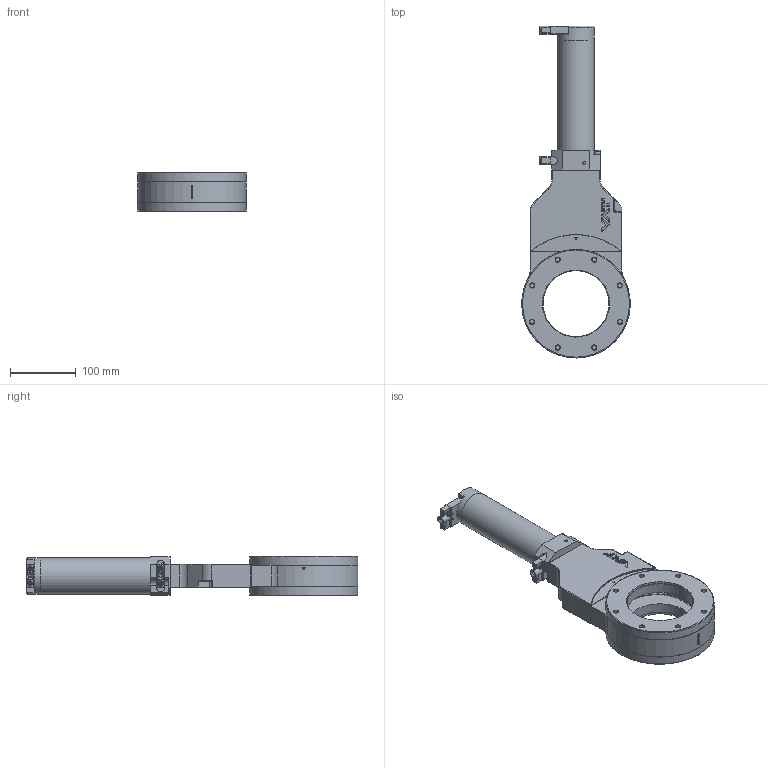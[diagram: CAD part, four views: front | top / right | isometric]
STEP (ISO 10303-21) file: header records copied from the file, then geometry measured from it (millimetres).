
FILE_DESCRIPTION( ( 'Unknown' ), '1' );
FILE_NAME( 'X:/Daten ( aktueller Bestand )/Projekte und Zeichnungen/Solid Edge/STP-Dateien/Schieberventile ISO-F/814424.stp', 'Unknown', ( 'Unknown' ), ( 'Unknown' ), 'PSStep 14.0', 'Unknown', ' ' );
FILE_SCHEMA( ( 'AUTOMOTIVE_DESIGN { 1 0 10303 214 1 1 1 1 }' ) );
Length unit declared in the file: millimetre
Products named in the file (40): N-8406-013_1_1.4_NX-ARRAGMNTZUSAMMENST1_3; N-8406-013_2.1_3; 202839_1.2_3; N-8406-013_3.2_3; 78856-R1.3_3; N-6099-417.1_3; N-6121-039.1_3; 73662-01.1_3; 251092.4_3; 251093.3_3; N-6121-027.2_3; 87090-R1.22_NX-ARRAGMNTunbetaetigt Hub 0mm (mit Feder)_0; 87105-01.1_3; 93115-01.1_3; N-6195-007.2_4; 80478-01.1_3; 92838-01_4.2_0; N-7100-005_2.1_4; 80477-01.1_3; 78855-R1.9_NX-ARRAGMNTEXPLOSION_0; N-6016-478.2_3; T-9001-055.1_3; 77379-01.1_3; 87090-R1.22_NX-ARRAGMNTbetaetigt Hub 5mm max (mit Feder)_3; 92838-01_3.2_3; Assem1; N-6005-466.1_0; N-6005-459.1_0; N-6005-452.1_0; N-5100-113.1_0; 224795.1_3; N-5100-153.1_0; 245959.8_0; 246014.7_0; 80829-01.1_0; 236270.2_0; N-6005-478.1_0; 313018.1_3; 251289.1_3; n-6134-407_3
Assembly tree (55 placements, depth 5):
  Assem1
    N-6005-466.1_0  x2
    N-6005-459.1_0
    N-6005-452.1_0
    N-5100-113.1_0  x2
    224795.1_3  x2
    N-5100-153.1_0
    245959.8_0
    246014.7_0
    80829-01.1_0
    236270.2_0
    N-6005-478.1_0
    313018.1_3  x2
    251289.1_3
    n-6134-407_3  x2
    251092.4_3
      251093.3_3
      N-6121-027.2_3  x2
    87090-R1.22_NX-ARRAGMNTunbetaetigt Hub 0mm (mit Feder)_0
      87105-01.1_3
      93115-01.1_3
      N-6195-007.2_4
      80478-01.1_3
      92838-01_4.2_0
      N-7100-005_2.1_4
      80477-01.1_3
    87090-R1.22_NX-ARRAGMNTbetaetigt Hub 5mm max (mit Feder)_3
      87105-01.1_3
      93115-01.1_3
      N-6195-007.2_4
      80478-01.1_3
      N-7100-005_2.1_4
      80477-01.1_3
      92838-01_3.2_3
    78855-R1.9_NX-ARRAGMNTEXPLOSION_0  x2
      N-6016-478.2_3
      T-9001-055.1_3
      77379-01.1_3
      78856-R1.3_3
        N-6099-417.1_3  x2
        N-6121-039.1_3
        202839_1.2_3
        73662-01.1_3
        N-8406-013_1_1.4_NX-ARRAGMNTZUSAMMENST1_3
          N-8406-013_2.1_3
          202839_1.2_3
          N-8406-013_3.2_3
Bounding box: 165.6 x 505.7 x 60 mm (x, y, z)
Volume: 1199282.1 mm3; surface area: 298732.3 mm2
Topology: 60 solids, 60 shells, 1910 faces, 4685 edges, 2992 vertices
Faces by surface type: plane 1023, cylinder 522, torus 128, cone 111, extrusion 74, bspline 30, sphere 20, revolution 2
Full cylindrical faces by diameter (mm): 1.4 x4, 1.5 x4, 1.875 x2, 2 x4, 2.115 x8, 2.3 x2, 2.475 x6, 2.5 x6, 2.56 x2, 2.575 x2, 3 x6, 3.3 x2, 3.5 x10, 4.16 x1, 4.2 x15, 4.3 x2, 4.7 x4, 5 x10, 5.1 x3, 5.3 x2, 5.5 x6, 5.6 x2, 5.65 x2, 5.7 x2, 5.8 x4, 6 x1, 6.2 x2, 6.475 x2, 6.511 x2, 6.8 x18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
Entity records: 59622 total; most frequent: CARTESIAN_POINT 14659, DIRECTION 6785, ORIENTED_EDGE 6416, EDGE_CURVE 3208, AXIS2_PLACEMENT_3D 2397, VERTEX_POINT 2193, VECTOR 1990, LINE 1916
